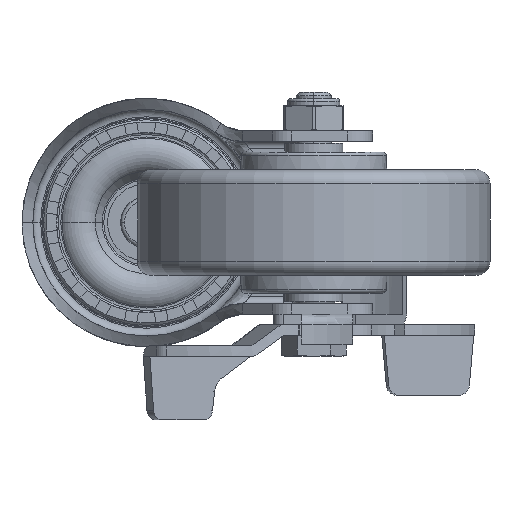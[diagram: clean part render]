
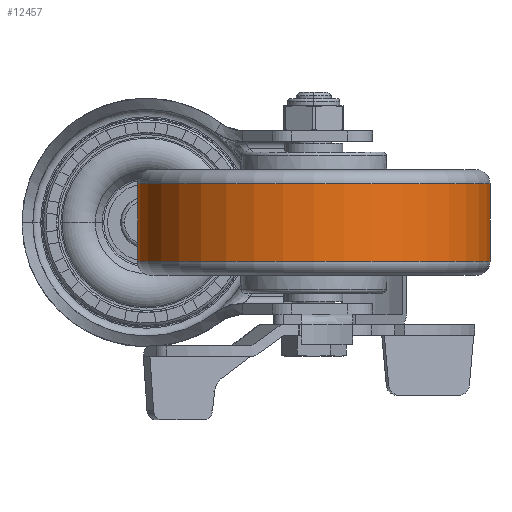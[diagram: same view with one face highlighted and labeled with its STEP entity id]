
A CAD part, front view. The second image highlights one B-rep face of the part: STEP entity #12457.
In plain terms, the highlighted cylindrical face has radius 50 mm (diameter 100 mm), a partial arc.
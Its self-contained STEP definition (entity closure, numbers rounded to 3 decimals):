
#11822=CARTESIAN_POINT('',(-11.,0.,0.));
#11823=DIRECTION('',(1.,0.,0.));
#11824=DIRECTION('',(0.,-1.,0.));
#11825=AXIS2_PLACEMENT_3D('',#11822,#11823,#11824);
#11827=DIRECTION('',(1.,0.,0.));
#11828=VECTOR('',#11827,22.);
#11829=CARTESIAN_POINT('',(-11.,-50.,0.));
#11830=LINE('',#11829,#11828);
#11836=DIRECTION('',(1.,0.,0.));
#11837=VECTOR('',#11836,22.);
#11838=CARTESIAN_POINT('',(-11.,50.,0.));
#11839=LINE('',#11838,#11837);
#11855=CARTESIAN_POINT('',(11.,0.,0.));
#11856=DIRECTION('',(1.,0.,0.));
#11857=DIRECTION('',(0.,-1.,0.));
#11858=AXIS2_PLACEMENT_3D('',#11855,#11856,#11857);
#12364=CARTESIAN_POINT('',(-11.,-50.,0.));
#12366=VERTEX_POINT('',#12364);
#12367=CARTESIAN_POINT('',(11.,-50.,0.));
#12368=VERTEX_POINT('',#12367);
#12372=CARTESIAN_POINT('',(-11.,50.,0.));
#12374=VERTEX_POINT('',#12372);
#12375=CARTESIAN_POINT('',(11.,50.,0.));
#12376=VERTEX_POINT('',#12375);
#12443=CARTESIAN_POINT('',(-16.5,0.,0.));
#12444=DIRECTION('',(1.,0.,0.));
#12445=DIRECTION('',(0.,-1.,0.));
#12446=AXIS2_PLACEMENT_3D('',#12443,#12444,#12445);
#12447=CYLINDRICAL_SURFACE('',#12446,50.);
#12449=ORIENTED_EDGE('',*,*,#12448,.T.);
#12451=ORIENTED_EDGE('',*,*,#12450,.T.);
#12453=ORIENTED_EDGE('',*,*,#12452,.F.);
#12454=ORIENTED_EDGE('',*,*,#12436,.F.);
#12455=EDGE_LOOP('',(#12449,#12451,#12453,#12454));
#12456=FACE_OUTER_BOUND('',#12455,.F.);
#11826=CIRCLE('',#11825,50.);
#11859=CIRCLE('',#11858,50.);
#12436=EDGE_CURVE('',#12366,#12374,#11826,.T.);
#12448=EDGE_CURVE('',#12366,#12368,#11830,.T.);
#12450=EDGE_CURVE('',#12368,#12376,#11859,.T.);
#12452=EDGE_CURVE('',#12374,#12376,#11839,.T.);
#12457=ADVANCED_FACE('',(#12456),#12447,.T.);
